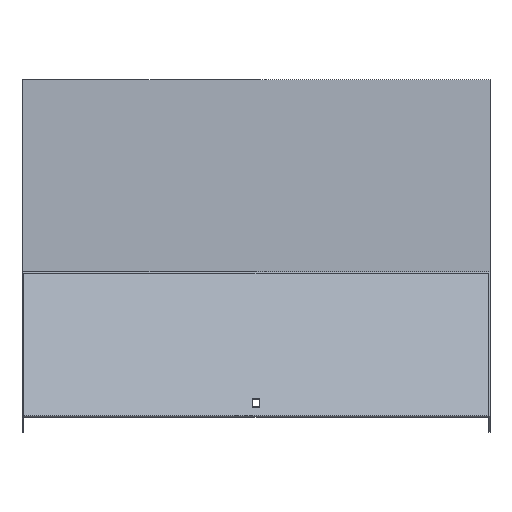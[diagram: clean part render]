
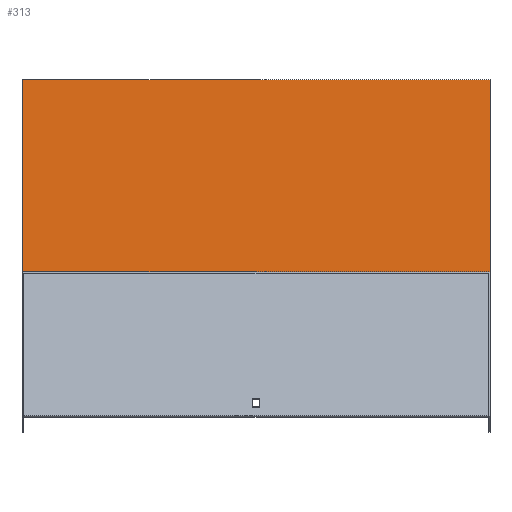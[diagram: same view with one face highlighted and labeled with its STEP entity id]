
A CAD part, top view. The second image highlights one B-rep face of the part: STEP entity #313.
In plain terms, the highlighted planar face has unit normal (0, 0.924, 0.383).
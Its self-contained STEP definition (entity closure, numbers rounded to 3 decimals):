
#55 = DIRECTION ( 'NONE',  ( -1., 0., 0. ) ) ;
#56 = PLANE ( 'NONE',  #509 ) ;
#67 = CARTESIAN_POINT ( 'NONE',  ( 201.5, 18.478, 179.654 ) ) ;
#102 = ORIENTED_EDGE ( 'NONE', *, *, #836, .T. ) ;
#107 = CARTESIAN_POINT ( 'NONE',  ( -201.5, 18.478, 179.654 ) ) ;
#111 = EDGE_LOOP ( 'NONE', ( #102, #804, #805, #265 ) ) ;
#160 = VECTOR ( 'NONE', #55, 1000. ) ;
#184 = VERTEX_POINT ( 'NONE', #292 ) ;
#196 = CARTESIAN_POINT ( 'NONE',  ( 201.5, 18.478, 179.654 ) ) ;
#248 = EDGE_CURVE ( 'NONE', #184, #537, #449, .T. ) ;
#256 = DIRECTION ( 'NONE',  ( -1., 0., 0. ) ) ;
#257 = CARTESIAN_POINT ( 'NONE',  ( 201.5, 20., 175.978 ) ) ;
#265 = ORIENTED_EDGE ( 'NONE', *, *, #838, .T. ) ;
#292 = CARTESIAN_POINT ( 'NONE',  ( 201.5, -146.068, 576.902 ) ) ;
#313 = ADVANCED_FACE ( 'NONE', ( #321 ), #56, .F. ) ;
#321 = FACE_OUTER_BOUND ( 'NONE', #111, .T. ) ;
#330 = VECTOR ( 'NONE', #445, 1000. ) ;
#347 = VECTOR ( 'NONE', #256, 1000. ) ;
#366 = DIRECTION ( 'NONE',  ( 0., -0.383, 0.924 ) ) ;
#445 = DIRECTION ( 'NONE',  ( 0., -0.383, 0.924 ) ) ;
#449 = LINE ( 'NONE', #717, #347 ) ;
#461 = LINE ( 'NONE', #196, #330 ) ;
#500 = LINE ( 'NONE', #725, #160 ) ;
#508 = VECTOR ( 'NONE', #366, 1000. ) ;
#509 = AXIS2_PLACEMENT_3D ( 'NONE', #67, #844, #727 ) ;
#510 = CARTESIAN_POINT ( 'NONE',  ( -201.5, -146.068, 576.902 ) ) ;
#537 = VERTEX_POINT ( 'NONE', #510 ) ;
#559 = VERTEX_POINT ( 'NONE', #257 ) ;
#564 = VERTEX_POINT ( 'NONE', #585 ) ;
#585 = CARTESIAN_POINT ( 'NONE',  ( -201.5, 20., 175.978 ) ) ;
#589 = EDGE_CURVE ( 'NONE', #559, #184, #461, .T. ) ;
#700 = LINE ( 'NONE', #107, #508 ) ;
#717 = CARTESIAN_POINT ( 'NONE',  ( 201.5, -146.068, 576.902 ) ) ;
#725 = CARTESIAN_POINT ( 'NONE',  ( 201.5, 20., 175.978 ) ) ;
#727 = DIRECTION ( 'NONE',  ( 0., 0.383, -0.924 ) ) ;
#804 = ORIENTED_EDGE ( 'NONE', *, *, #248, .F. ) ;
#805 = ORIENTED_EDGE ( 'NONE', *, *, #589, .F. ) ;
#836 = EDGE_CURVE ( 'NONE', #564, #537, #700, .T. ) ;
#838 = EDGE_CURVE ( 'NONE', #559, #564, #500, .T. ) ;
#844 = DIRECTION ( 'NONE',  ( 0., -0.924, -0.383 ) ) ;
